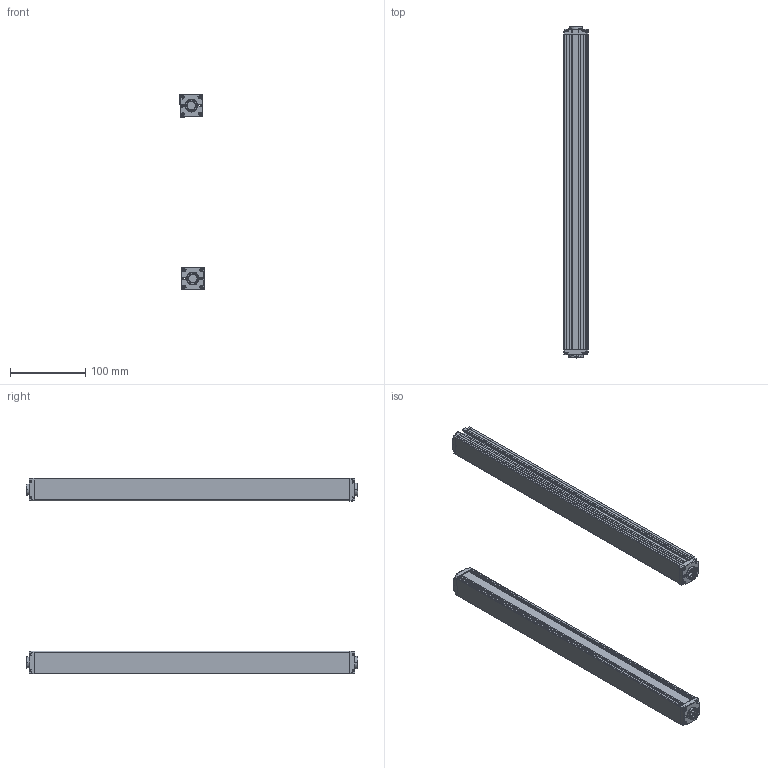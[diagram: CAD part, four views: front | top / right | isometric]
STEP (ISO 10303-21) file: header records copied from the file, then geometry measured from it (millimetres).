
FILE_DESCRIPTION (( 'STEP AP203' ), '1' );
FILE_NAME ('ZDA4010-420.STEP', '2022-08-30T03:46:38', ( 'Windows 蚚誧' ), ( 'Organization' ), 'SwSTEP 2.0', 'SolidWorks 2020', '' );
FILE_SCHEMA (( 'CONFIG_CONTROL_DESIGN' ));
Length unit declared in the file: millimetre
Products named in the file (5): 錨璃8 - 萵掛 (2); 錨璃10; ZDA4010-420; 錨璃1; 錨璃8
Assembly tree (8 placements, depth 2):
  ZDA4010-420
    錨璃1  x2
    錨璃8  x2
    錨璃8 - 萵掛 (2)  x2
    錨璃10  x2
Bounding box: 32.36 x 441.4 x 260.35 mm (x, y, z)
Volume: 273369.9 mm3; surface area: 291108.8 mm2
Topology: 8 solids, 8 shells, 1032 faces, 2690 edges, 1668 vertices
Faces by surface type: plane 464, cylinder 310, cone 120, bspline 58, torus 48, sphere 32
Entity records: 17901 total; most frequent: CARTESIAN_POINT 4731, ORIENTED_EDGE 2666, DIRECTION 2616, EDGE_CURVE 1333, AXIS2_PLACEMENT_3D 894, VERTEX_POINT 834, VECTOR 828, LINE 828
